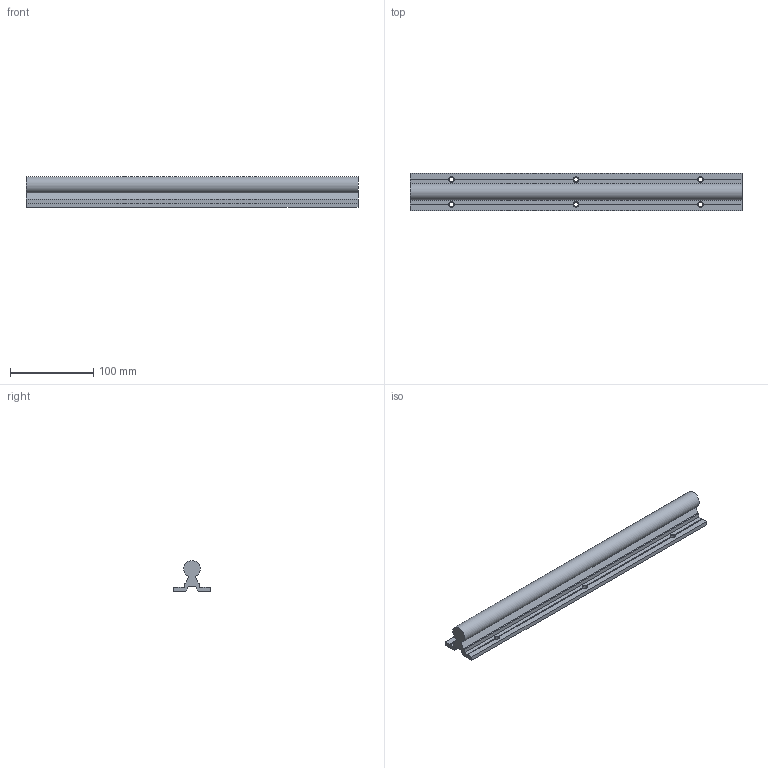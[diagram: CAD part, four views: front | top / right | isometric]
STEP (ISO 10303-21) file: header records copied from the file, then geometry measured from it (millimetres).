
FILE_DESCRIPTION(/* description */ (''),/* implementation_level */ '2;1');
FILE_NAME(/* name */ 'C:\Users\David\Desktop\stepFiles\Profilfuehrung\LFS20x400.stp',/* time_stamp */ '2018-06-24T15:21:51+02:00',/* author */ ('Buskamp'),/* organization */ (''),/* preprocessor_version */ 'ST-DEVELOPER v17',/* originating_system */ 'Autodesk Inventor 2019',/* authorisation */ '');
FILE_SCHEMA (('AUTOMOTIVE_DESIGN { 1 0 10303 214 3 1 1 }'));
Length unit declared in the file: millimetre
Products named in the file (1): Linearführung D20xvariabel
Bounding box: 400 x 45 x 37 mm (x, y, z)
Volume: 258359.2 mm3; surface area: 71925.4 mm2
Topology: 1 solids, 1 shells, 62 faces, 180 edges, 114 vertices
Faces by surface type: plane 43, cone 12, cylinder 7
Full cylindrical faces by diameter (mm): 5.5 x6
Entity records: 2075 total; most frequent: CARTESIAN_POINT 405, ORIENTED_EDGE 360, DIRECTION 338, EDGE_CURVE 180, AXIS2_PLACEMENT_3D 119, VERTEX_POINT 114, LINE 100, VECTOR 100
